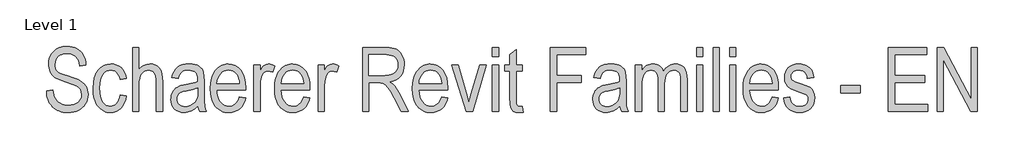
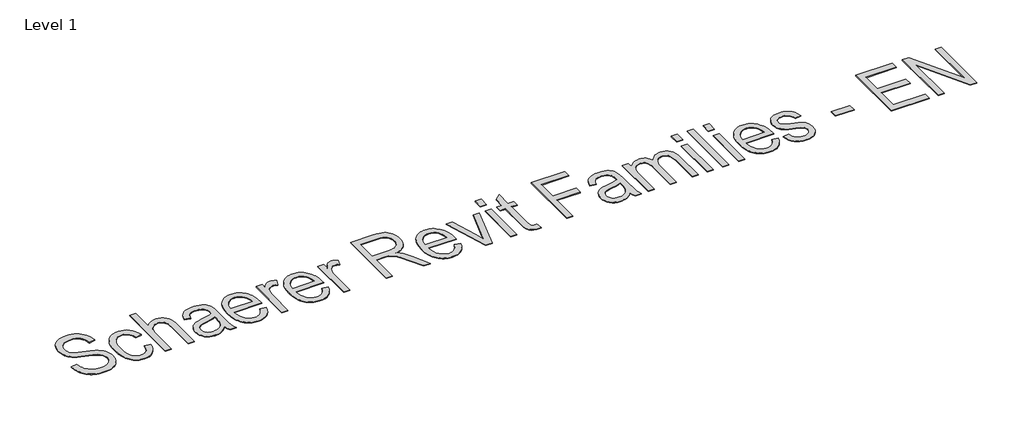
# One storey, part 3 of 3: 1 proxy.
"""IFC4 building model written with IfcOpenShell, lengths in millimetres."""

from ifc_helpers import new_model, si_unit, origin, origin_with_axes, place, context, project, spatial, polyline, outline, extrude, element, save

model = new_model("IFC4")

# Units and contexts
model_context = context("Model", 3, world=origin())
ifc_project = project(units=[si_unit("LENGTHUNIT", "METRE", prefix="MILLI")], contexts=[model_context])

# Site, building, storey
site = spatial("IfcSite", under=ifc_project)
building = spatial("IfcBuilding", under=site)
storey = spatial("IfcBuildingStorey", under=building, Name="Level 1", Elevation=0.0)

# Proxy
placement = place(None, origin())
element("IfcBuildingElementProxy", 1, Name="2000mm Arial", ObjectType="2000mm Arial", at=placement, inside=storey, context=model_context, shape_type="SweptSolid", body=[
    extrude(outline(polyline([(-29977.9464869, 13608.1957438), (-29879.5021742, 13624.6031293), (-29873.9342382, 13582.9517636), (-29865.6904884, 13546.1873633), (-29854.7709247, 13514.3099284), (-29841.1755472, 13487.3194588), (-29824.6319677, 13463.9741848), (-29804.8677978, 13443.0323364), (-29781.8830376, 13424.4939136), (-29755.6776871, 13408.3589164), (-29726.9968083, 13395.2922925), (-29696.585463, 13385.9589897), (-29664.4436512, 13380.3590081), (-29630.5713731, 13378.4923475), (-29583.3761056, 13381.4966295), (-29541.7728085, 13390.5094755), (-29505.7614815, 13405.5308856), (-29475.3421248, 13426.5608596), (-29451.1716746, 13452.3976848), (-29433.9070674, 13481.8396485), (-29423.548303, 13514.8867505), (-29420.0953816, 13551.5389909), (-29425.1265525, 13593.7751902), (-29440.2200653, 13630.243168), (-29465.472057, 13660.782696), (-29500.9786646, 13685.2335458), (-29565.166151, 13711.6071361), (-29676.4607793, 13747.9148855), (-29778.3980705, 13784.4469547), (-29815.83543, 13802.4245782), (-29844.251932, 13820.2099277), (-29866.8281098, 13839.0928415), (-29886.7444967, 13860.3631581), (-29904.0010925, 13884.0208774), (-29918.5978973, 13910.0659996), (-29930.206443, 13938.1940905), (-29938.4982613, 13968.1007165), (-29943.4733523, 13999.7858773), (-29945.131716, 14033.2495731), (-29940.2767963, 14092.2136146), (-29925.7120371, 14145.5376173), (-29901.4374385, 14193.2215813), (-29867.4530005, 14235.2655065), (-29825.2488469, 14269.5864241), (-29776.3151016, 14294.1013653), (-29720.6517647, 14308.8103299), (-29658.258836, 14313.7133182), (-29614.4283644, 14311.4781324), (-29573.4339351, 14304.7725749), (-29535.2755479, 14293.5966459), (-29499.953203, 14277.9503452), (-29467.9475853, 14258.1300954), (-29439.7393802, 14234.432319), (-29415.3285875, 14206.8570159), (-29394.7152072, 14175.4041861), (-29378.1636162, 14140.5465035), (-29365.9381913, 14102.7566416), (-29358.0389325, 14062.0346004), (-29354.4658398, 14018.3803801), (-29452.9101525, 14001.9729946), (-29459.6798013, 14048.8478053), (-29471.7850549, 14089.2333669), (-29489.2259134, 14123.1296793), (-29512.0023767, 14150.5367426), (-29540.0183078, 14171.6788765), (-29573.1775697, 14186.7804007), (-29611.4801624, 14195.8413152), (-29654.9260858, 14198.86162), (-29698.9328086, 14195.9054065), (-29737.3796069, 14187.0367661), (-29770.2664805, 14172.2556986), (-29797.5934296, 14151.5622042), (-29819.0720431, 14126.1740184), (-29834.4139099, 14097.3088769), (-29843.6190299, 14064.9667797), (-29846.6874033, 14029.1477268), (-29844.7005715, 13996.2528417), (-29838.740076, 13967.2995746), (-29828.8059168, 13942.2879255), (-29814.898094, 13921.2178944), (-29793.0749895, 13902.1987864), (-29759.13862, 13883.5962723), (-29713.0889854, 13865.4103519), (-29654.9260858, 13847.6410252), (-29547.829441, 13815.3389851), (-29478.2903269, 13787.6515222), (-29441.8383719, 13766.6856395), (-29410.1612224, 13743.2682627), (-29383.2588785, 13717.3993918), (-29361.1313401, 13689.0790268), (-29343.8587215, 13658.1148936), (-29331.5211367, 13624.3147182), (-29324.1185858, 13587.6785006), (-29321.6510689, 13548.2062408), (-29324.1826772, 13508.4776156), (-29331.7775021, 13470.559571), (-29344.4355436, 13434.452107), (-29362.1568017, 13400.1552236), (-29384.2282602, 13368.7584738), (-29409.9369027, 13341.3514105), (-29439.2827293, 13317.9340337), (-29472.26574, 13298.5063435), (-29508.8378663, 13283.2526023), (-29548.9510396, 13272.3570729), (-29592.60526, 13265.8197553), (-29639.8005274, 13263.6406494), (-29712.4400605, 13269.4489279), (-29745.8456736, 13276.7092761), (-29777.3085176, 13286.8737635), (-29806.8285925, 13299.9423903), (-29834.4058985, 13315.9151562), (-29860.0404354, 13334.7920615), (-29883.7322033, 13356.573106), (-29905.0846369, 13380.8336846), (-29923.701171, 13407.1491921), (-29939.5818057, 13435.5196285), (-29952.7265409, 13465.9449938), (-29963.1353766, 13498.425288), (-29970.8083129, 13532.960511), (-29977.9464869, 13608.1957438)])), origin_with_axes(), (0.0, 0.0, 1.0), 10.0),
    extrude(outline(polyline([(-28813.0221199, 13542.566202), (-28714.5778072, 13526.1588166), (-28726.4427183, 13465.9850509), (-28744.8609698, 13413.3900873), (-28769.8325619, 13368.3739257), (-28801.3574943, 13330.9365663), (-28837.8975749, 13301.4946026), (-28877.9146112, 13280.4646286), (-28921.4086032, 13267.8466442), (-28968.3795509, 13263.6406494), (-29024.9722125, 13269.737339), (-29051.2977342, 13277.358201), (-29076.3093833, 13288.0274078), (-29100.0071598, 13301.7449595), (-29122.3910636, 13318.5108559), (-29163.2172531, 13361.1876832), (-29181.1227739, 13387.0385284), (-29196.6408919, 13415.8175471), (-29209.7716071, 13447.5247394), (-29220.5149195, 13482.1601052), (-29234.8393361, 13560.2153574), (-29239.6141416, 13649.9833036), (-29234.6951306, 13740.1197752), (-29219.9380974, 13818.2551415), (-29208.8703225, 13852.8224103), (-29195.343042, 13884.3894027), (-29179.3562561, 13912.9561189), (-29160.9099646, 13938.5225587), (-29118.7538795, 13980.6385867), (-29095.5728395, 13997.1841691), (-29070.9898013, 14010.7214638), (-29045.0047649, 14021.2504708), (-29017.6177301, 14028.7711901), (-28958.6376658, 14034.7877655), (-28912.9485451, 14031.19865), (-28870.9927455, 14020.4313033), (-28832.770267, 14002.4857254), (-28798.2811096, 13977.3619165), (-28768.5827805, 13945.0598763), (-28744.7327871, 13905.5796051), (-28726.7311294, 13858.9211027), (-28714.5778072, 13805.0843692), (-28813.0221199, 13788.6769838), (-28822.1230916, 13823.3904609), (-28834.0440825, 13853.4412924), (-28848.7850929, 13878.8294781), (-28866.3461227, 13899.5550183), (-28886.2625095, 13915.6499584), (-28908.0695911, 13927.1463442), (-28931.7673676, 13934.0441757), (-28957.3558388, 13936.3434528), (-28995.3860433, 13932.0893895), (-29030.0033834, 13919.3271996), (-29061.2078591, 13898.056883), (-29088.9994705, 13868.2784397), (-29111.8240023, 13829.2387965), (-29128.1272393, 13780.18488), (-29137.9091815, 13721.1166901), (-29141.1698289, 13652.0342268), (-29138.1335013, 13580.796692), (-29129.0245182, 13520.1342297), (-29113.8428798, 13470.0468402), (-29092.5885861, 13430.5345232), (-29066.5915325, 13400.5878402), (-29037.1816145, 13379.1973524), (-29004.3588322, 13366.3630596), (-28968.1231855, 13362.0849621), (-28939.4663409, 13364.8328787), (-28912.9725794, 13373.0766285), (-28888.6419008, 13386.8162115), (-28866.4743054, 13406.0516278), (-28847.3190033, 13431.0712883), (-28832.025205, 13462.1636042), (-28820.5929106, 13499.3285754), (-28813.0221199, 13542.566202)])), origin_with_axes(), (0.0, 0.0, 1.0), 10.0),
    extrude(outline(polyline([(-28616.1334945, 13280.0480348), (-28616.1334945, 14297.3059327), (-28517.6891818, 14297.3059327), (-28517.6891818, 13942.7525878), (-28480.5482449, 13983.0980922), (-28438.8568221, 14011.8430624), (-28392.6149135, 14029.0515898), (-28341.822519, 14034.7877655), (-28297.6155108, 14030.9422846), (-28258.3114908, 14019.4058417), (-28223.910459, 14000.1784368), (-28194.4124154, 13973.2600701), (-28170.7466846, 13936.0870874), (-28153.8425912, 13886.0958349), (-28143.7001352, 13823.2863125), (-28140.3193165, 13747.6585202), (-28140.3193165, 13280.0480348), (-28238.7636292, 13280.0480348), (-28238.7636292, 13754.5803859), (-28240.8225638, 13799.7327416), (-28246.9993676, 13838.0273228), (-28257.2940406, 13869.4641297), (-28271.7065828, 13894.0431622), (-28289.7242634, 13912.5495394), (-28310.8343516, 13925.7683802), (-28335.0368474, 13933.6996847), (-28362.3317509, 13936.3434528), (-28393.4320782, 13932.9546227), (-28422.1289799, 13922.7881324), (-28448.422456, 13905.8439819), (-28472.3125065, 13882.1221712), (-28492.1648019, 13849.7640512), (-28506.345013, 13806.9109727), (-28514.8531396, 13753.5629357), (-28517.6891818, 13689.7199403), (-28517.6891818, 13280.0480348), (-28616.1334945, 13280.0480348)])), origin_with_axes(), (0.0, 0.0, 1.0), 10.0),
    extrude(outline(polyline([(-27582.4682112, 13371.8268472), (-27634.5424326, 13324.655614), (-27688.7316685, 13290.8153815), (-27716.6194169, 13278.9264362), (-27745.035919, 13270.4343324), (-27773.9811747, 13265.3390701), (-27803.455184, 13263.6406494), (-27847.9986718, 13267.2137421), (-27887.7993998, 13277.9330203), (-27922.8573679, 13295.7984839), (-27953.1725762, 13320.8101331), (-27977.623426, 13351.8623918), (-27995.0883187, 13387.8496845), (-28005.5672543, 13428.7720111), (-28009.0602329, 13474.6293716), (-28007.3858464, 13505.7617446), (-28002.3626869, 13535.0675141), (-27993.9907544, 13562.5466802), (-27982.2700488, 13588.1992428), (-27967.6492097, 13611.5845739), (-27950.5768765, 13632.2620455), (-27931.0530492, 13650.2316576), (-27909.0777278, 13665.4934102), (-27882.8803887, 13678.4959427), (-27850.6905085, 13689.6878946), (-27768.3331245, 13706.6400565), (-27658.5446429, 13729.3283942), (-27616.2924208, 13742.1146184), (-27582.4682112, 13755.8622129), (-27582.4682112, 13787.3951568), (-27584.2147005, 13822.0365311), (-27589.4541683, 13851.1019581), (-27598.1866146, 13874.5914377), (-27610.4120395, 13892.5049698), (-27632.6517378, 13911.6843061), (-27660.1469267, 13925.3838321), (-27692.8976062, 13933.6035476), (-27730.9037764, 13936.3434528), (-27765.2567397, 13934.6209978), (-27794.9951258, 13929.4536328), (-27820.1189348, 13920.8413577), (-27840.6281666, 13908.7841726), (-27857.6283971, 13891.9682048), (-27872.2252019, 13869.0795816), (-27884.4185811, 13840.1183031), (-27894.2085347, 13805.0843692), (-27992.6528474, 13821.4917547), (-27979.1135499, 13873.4618276), (-27960.0303506, 13917.8530985), (-27935.4032496, 13954.6655673), (-27905.2322468, 13983.8992341), (-27868.7482462, 14006.1629666), (-27825.1821514, 14022.0656327), (-27774.5339625, 14031.6072323), (-27716.8036796, 14034.7877655), (-27671.5712097, 14032.5525797), (-27631.4980935, 14025.8470223), (-27596.5843309, 14014.6710932), (-27566.8299219, 13999.0247926), (-27542.1627638, 13980.0777874), (-27522.5107538, 13958.9997448), (-27507.8738919, 13935.7906649), (-27498.2521781, 13910.4505477), (-27487.5809684, 13845.4619194), (-27484.0238985, 13756.1185783), (-27484.0238985, 13589.2247044), (-27482.3575234, 13446.5253149), (-27477.3583981, 13368.6222797), (-27467.4883303, 13323.7262895), (-27451.2091276, 13280.0480348), (-27549.6534403, 13280.0480348), (-27570.4190375, 13322.2201427), (-27582.4682112, 13371.8268472)]), holes=[polyline([(-27582.4682112, 13657.4179002), (-27615.683553, 13643.4780317), (-27656.1091717, 13630.6277161), (-27758.5912394, 13608.1957438), (-27816.3054995, 13596.1145245), (-27853.5746192, 13582.4310214), (-27877.6088752, 13564.934083), (-27895.6185444, 13541.4125577), (-27906.8665762, 13512.8598616), (-27910.6159202, 13480.2694104), (-27908.46886, 13454.7049734), (-27902.0276794, 13431.8483959), (-27891.2923783, 13411.6996779), (-27876.2629569, 13394.2588195), (-27857.436123, 13380.1827569), (-27835.3085846, 13370.1284264), (-27809.8803417, 13364.0958282), (-27781.1513944, 13362.0849621), (-27752.9672235, 13363.9035541), (-27726.0969252, 13369.3593302), (-27700.5404996, 13378.4522904), (-27676.2979467, 13391.1824347), (-27654.202454, 13406.9489067), (-27635.0872091, 13425.1508499), (-27618.9522118, 13445.7882644), (-27605.7974624, 13468.8611502), (-27595.590915, 13495.9317339), (-27588.300524, 13528.5622422), (-27583.9262894, 13566.752675), (-27582.4682112, 13610.5030324), (-27582.4682112, 13657.4179002)])]), origin_with_axes(), (0.0, 0.0, 1.0), 10.0),
    extrude(outline(polyline([(-26926.1727932, 13509.7514311), (-26827.7284805, 13493.3440457), (-26843.735295, 13439.9239059), (-26865.0937372, 13393.4897233), (-26891.8038071, 13354.0414977), (-26923.8655046, 13321.5792292), (-26960.6859848, 13296.2311006), (-27001.6724028, 13278.1252943), (-27046.8247585, 13267.2618106), (-27096.1430518, 13263.6406494), (-27127.7360814, 13265.1648218), (-27157.7829071, 13269.737339), (-27186.2835291, 13277.358201), (-27213.2379472, 13288.0274078), (-27238.6461615, 13301.7449595), (-27262.5081721, 13318.5108559), (-27284.8239788, 13338.3250971), (-27305.5935817, 13361.1876832), (-27324.3403014, 13386.9303742), (-27340.5874585, 13415.3849305), (-27354.3350529, 13446.551352), (-27365.5830848, 13480.4296388), (-27380.5804605, 13556.3218079), (-27385.5795858, 13643.0614379), (-27380.5564263, 13732.8934755), (-27365.4869477, 13811.3973671), (-27354.1848388, 13846.4012582), (-27340.3711502, 13878.5731127), (-27324.0458818, 13907.9129308), (-27305.2090336, 13934.4207123), (-27262.3559551, 13978.3312981), (-27238.9285641, 13995.5818854), (-27214.1672718, 14009.6960022), (-27188.0720783, 14020.6736487), (-27160.6429836, 14028.5148247), (-27131.8799877, 14033.2195303), (-27101.7830906, 14034.7877655), (-27045.3907145, 14028.731133), (-27019.0271385, 14021.1603424), (-26993.8853038, 14010.5612354), (-26969.9652105, 13996.9338123), (-26947.2668586, 13980.2780729), (-26905.5353787, 13937.8816452), (-26887.11913, 13912.3011854), (-26871.1583811, 13884.012866), (-26857.6531321, 13853.0166872), (-26846.6033829, 13819.3126488), (-26831.8703839, 13743.7809935), (-26826.9593843, 13657.4179002), (-26827.7284805, 13624.6031293), (-27287.1352731, 13624.6031293), (-27280.8463094, 13563.4920276), (-27268.6449188, 13510.3923446), (-27250.5311011, 13465.3040803), (-27226.5048565, 13428.2272347), (-27198.040286, 13399.2899904), (-27166.6114905, 13378.6205302), (-27132.2184701, 13366.2188541), (-27094.8612248, 13362.0849621), (-27065.6996609, 13364.3922507), (-27038.8453855, 13371.3141164), (-27014.2983986, 13382.8505593), (-26992.0587004, 13399.0015793), (-26972.1262907, 13419.7671765), (-26954.5011696, 13445.1473509), (-26939.1833371, 13475.1421024), (-26926.1727932, 13509.7514311)]), holes=[polyline([(-27280.4697727, 13723.047442), (-26926.1727932, 13723.047442), (-26931.5564665, 13768.1997976), (-26940.5292555, 13807.2634751), (-26953.0911599, 13840.2384744), (-26969.24218, 13867.1247955), (-26996.8975973, 13897.4079581), (-27028.0780388, 13919.0387885), (-27062.7835045, 13932.0172867), (-27101.0139944, 13936.3434528), (-27135.83162, 13932.7383144), (-27167.9894545, 13921.9228992), (-27197.4874981, 13903.8972072), (-27224.3257507, 13878.6612384), (-27246.9660198, 13847.3045457), (-27263.8701132, 13810.916682), (-27275.0380309, 13769.4976475), (-27280.4697727, 13723.047442)])]), origin_with_axes(), (0.0, 0.0, 1.0), 10.0),
    extrude(outline(polyline([(-26696.4693969, 13280.0480348), (-26696.4693969, 14018.3803801), (-26598.0250842, 14018.3803801), (-26598.0250842, 13920.4487982), (-26565.0821306, 13978.0028299), (-26549.668161, 13998.0313766), (-26534.9591964, 14012.2276105), (-26504.451714, 14029.1477268), (-26470.3551161, 14034.7877655), (-26445.2313072, 14032.7368423), (-26419.8511328, 14026.5840728), (-26394.214593, 14016.3294569), (-26368.3216879, 14001.9729946), (-26401.1364588, 13903.5286819), (-26439.8476338, 13915.834221), (-26477.5333473, 13919.9360674), (-26509.675159, 13914.0717089), (-26538.93286, 13896.4786335), (-26562.6146136, 13868.3745768), (-26578.0285832, 13830.9772744), (-26593.0259589, 13755.5417561), (-26598.0250842, 13675.363478), (-26598.0250842, 13280.0480348), (-26696.4693969, 13280.0480348)])), origin_with_axes(), (0.0, 0.0, 1.0), 10.0),
    extrude(outline(polyline([(-25908.9148953, 13509.7514311), (-25810.4705826, 13493.3440457), (-25826.4773971, 13439.9239059), (-25847.8358393, 13393.4897233), (-25874.5459092, 13354.0414977), (-25906.6076067, 13321.5792292), (-25943.4280869, 13296.2311006), (-25984.4145049, 13278.1252943), (-26029.5668606, 13267.2618106), (-26078.8851539, 13263.6406494), (-26110.4781835, 13265.1648218), (-26140.5250092, 13269.737339), (-26169.0256312, 13277.358201), (-26195.9800493, 13288.0274078), (-26221.3882636, 13301.7449595), (-26245.2502742, 13318.5108559), (-26267.5660809, 13338.3250971), (-26288.3356838, 13361.1876832), (-26307.0824035, 13386.9303742), (-26323.3295606, 13415.3849305), (-26337.077155, 13446.551352), (-26348.3251869, 13480.4296388), (-26363.3225626, 13556.3218079), (-26368.3216879, 13643.0614379), (-26363.2985284, 13732.8934755), (-26348.2290498, 13811.3973671), (-26336.9269409, 13846.4012582), (-26323.1132523, 13878.5731127), (-26306.7879839, 13907.9129308), (-26287.9511357, 13934.4207123), (-26245.0980572, 13978.3312981), (-26221.6706661, 13995.5818854), (-26196.9093739, 14009.6960022), (-26170.8141804, 14020.6736487), (-26143.3850857, 14028.5148247), (-26114.6220898, 14033.2195303), (-26084.5251927, 14034.7877655), (-26028.1328166, 14028.731133), (-26001.7692406, 14021.1603424), (-25976.6274059, 14010.5612354), (-25952.7073126, 13996.9338123), (-25930.0089607, 13980.2780729), (-25888.2774808, 13937.8816452), (-25869.8612321, 13912.3011854), (-25853.9004832, 13884.012866), (-25840.3952342, 13853.0166872), (-25829.345485, 13819.3126488), (-25814.612486, 13743.7809935), (-25809.7014864, 13657.4179002), (-25810.4705826, 13624.6031293), (-26269.8773752, 13624.6031293), (-26263.5884115, 13563.4920276), (-26251.3870209, 13510.3923446), (-26233.2732032, 13465.3040803), (-26209.2469586, 13428.2272347), (-26180.7823881, 13399.2899904), (-26149.3535926, 13378.6205302), (-26114.9605722, 13366.2188541), (-26077.6033269, 13362.0849621), (-26048.441763, 13364.3922507), (-26021.5874875, 13371.3141164), (-25997.0405007, 13382.8505593), (-25974.8008025, 13399.0015793), (-25954.8683928, 13419.7671765), (-25937.2432717, 13445.1473509), (-25921.9254392, 13475.1421024), (-25908.9148953, 13509.7514311)]), holes=[polyline([(-26263.2118748, 13723.047442), (-25908.9148953, 13723.047442), (-25914.2985686, 13768.1997976), (-25923.2713575, 13807.2634751), (-25935.833262, 13840.2384744), (-25951.9842821, 13867.1247955), (-25979.6396994, 13897.4079581), (-26010.8201408, 13919.0387885), (-26045.5256066, 13932.0172867), (-26083.7560965, 13936.3434528), (-26118.573722, 13932.7383144), (-26150.7315566, 13921.9228992), (-26180.2296002, 13903.8972072), (-26207.0678528, 13878.6612384), (-26229.7081219, 13847.3045457), (-26246.6122153, 13810.916682), (-26257.780133, 13769.4976475), (-26263.2118748, 13723.047442)])]), origin_with_axes(), (0.0, 0.0, 1.0), 10.0),
    extrude(outline(polyline([(-25679.211499, 13280.0480348), (-25679.211499, 14018.3803801), (-25580.7671863, 14018.3803801), (-25580.7671863, 13920.4487982), (-25547.8242327, 13978.0028299), (-25532.4102631, 13998.0313766), (-25517.7012985, 14012.2276105), (-25487.1938161, 14029.1477268), (-25453.0972182, 14034.7877655), (-25427.9734093, 14032.7368423), (-25402.5932349, 14026.5840728), (-25376.9566951, 14016.3294569), (-25351.06379, 14001.9729946), (-25383.8785609, 13903.5286819), (-25422.5897359, 13915.834221), (-25460.2754494, 13919.9360674), (-25492.4172611, 13914.0717089), (-25521.6749621, 13896.4786335), (-25545.3567157, 13868.3745768), (-25560.7706853, 13830.9772744), (-25575.768061, 13755.5417561), (-25580.7671863, 13675.363478), (-25580.7671863, 13280.0480348), (-25679.211499, 13280.0480348)])), origin_with_axes(), (0.0, 0.0, 1.0), 10.0),
    extrude(outline(polyline([(-24973.6939246, 13280.0480348), (-24973.6939246, 14297.3059327), (-24609.65506, 14297.3059327), (-24556.3550915, 14295.5434206), (-24510.5377881, 14290.2558843), (-24472.2031497, 14281.4433237), (-24441.3511764, 14269.105739), (-24415.4502598, 14252.6582964), (-24391.9687917, 14231.5161626), (-24370.906772, 14205.6793373), (-24352.2642007, 14175.1478207), (-24337.0104595, 14140.9630973), (-24326.1149301, 14104.1666513), (-24319.5776125, 14064.7584828), (-24317.3985066, 14022.7385918), (-24321.0757478, 13968.397139), (-24332.1074713, 13919.4553823), (-24350.4936772, 13875.9133217), (-24376.2343654, 13837.7709574), (-24408.9770335, 13805.5570429), (-24448.3691791, 13779.8003319), (-24494.4108023, 13760.5008243), (-24547.1019029, 13747.6585202), (-24501.0202227, 13715.9333022), (-24467.3722643, 13683.8235361), (-24424.4310601, 13622.6162974), (-24386.8735294, 13554.8717411), (-24251.7689648, 13280.0480348), (-24360.9806242, 13280.0480348), (-24475.0632262, 13492.8313149), (-24533.5145368, 13597.7808995), (-24576.5839237, 13662.9297562), (-24611.4175721, 13700.7756981), (-24645.1616675, 13723.8165382), (-24684.9944412, 13735.5452551), (-24738.0941242, 13739.4548274), (-24875.2496119, 13739.4548274), (-24875.2496119, 13280.0480348), (-24973.6939246, 13280.0480348)]), holes=[polyline([(-24875.2496119, 13854.3065256), (-24628.8824648, 13854.3065256), (-24558.0615237, 13858.8890571), (-24529.9093984, 13864.6172214), (-24506.5961701, 13872.6366515), (-24486.7839317, 13883.1075757), (-24469.1347764, 13896.1902224), (-24453.6487041, 13911.8845916), (-24440.3257148, 13930.1906833), (-24429.614448, 13950.6037781), (-24421.9635432, 13972.6191566), (-24417.3730003, 13996.2368189), (-24415.8428193, 14021.4567648), (-24418.7669871, 14057.0034295), (-24427.5394906, 14088.528362), (-24442.1603297, 14116.0315623), (-24462.6295044, 14139.5130305), (-24488.8669006, 14158.2998073), (-24520.792404, 14171.7189336), (-24558.4060147, 14179.7704093), (-24601.7077326, 14182.4542346), (-24875.2496119, 14182.4542346), (-24875.2496119, 13854.3065256)])]), origin_with_axes(), (0.0, 0.0, 1.0), 10.0),
    extrude(outline(polyline([(-23726.7326304, 13509.7514311), (-23628.2883177, 13493.3440457), (-23644.2951322, 13439.9239059), (-23665.6535744, 13393.4897233), (-23692.3636443, 13354.0414977), (-23724.4253418, 13321.5792292), (-23761.2458221, 13296.2311006), (-23802.23224, 13278.1252943), (-23847.3845957, 13267.2618106), (-23896.7028891, 13263.6406494), (-23928.2959186, 13265.1648218), (-23958.3427444, 13269.737339), (-23986.8433663, 13277.358201), (-24013.7977844, 13288.0274078), (-24039.2059988, 13301.7449595), (-24063.0680093, 13318.5108559), (-24085.383816, 13338.3250971), (-24106.153419, 13361.1876832), (-24124.9001387, 13386.9303742), (-24141.1472957, 13415.3849305), (-24154.8948902, 13446.551352), (-24166.142922, 13480.4296388), (-24181.1402978, 13556.3218079), (-24186.139423, 13643.0614379), (-24181.1162635, 13732.8934755), (-24166.046785, 13811.3973671), (-24154.7446761, 13846.4012582), (-24140.9309874, 13878.5731127), (-24124.605719, 13907.9129308), (-24105.7688709, 13934.4207123), (-24062.9157924, 13978.3312981), (-24039.4884013, 13995.5818854), (-24014.727109, 14009.6960022), (-23988.6319155, 14020.6736487), (-23961.2028208, 14028.5148247), (-23932.4398249, 14033.2195303), (-23902.3429278, 14034.7877655), (-23845.9505517, 14028.731133), (-23819.5869757, 14021.1603424), (-23794.4451411, 14010.5612354), (-23770.5250478, 13996.9338123), (-23747.8266958, 13980.2780729), (-23706.0952159, 13937.8816452), (-23687.6789672, 13912.3011854), (-23671.7182184, 13884.012866), (-23658.2129693, 13853.0166872), (-23647.1632201, 13819.3126488), (-23632.4302212, 13743.7809935), (-23627.5192215, 13657.4179002), (-23628.2883177, 13624.6031293), (-24087.6951103, 13624.6031293), (-24081.4061467, 13563.4920276), (-24069.204756, 13510.3923446), (-24051.0909384, 13465.3040803), (-24027.0646938, 13428.2272347), (-23998.6001232, 13399.2899904), (-23967.1713277, 13378.6205302), (-23932.7783074, 13366.2188541), (-23895.4210621, 13362.0849621), (-23866.2594981, 13364.3922507), (-23839.4052227, 13371.3141164), (-23814.8582359, 13382.8505593), (-23792.6185376, 13399.0015793), (-23772.6861279, 13419.7671765), (-23755.0610069, 13445.1473509), (-23739.7431744, 13475.1421024), (-23726.7326304, 13509.7514311)]), holes=[polyline([(-24081.02961, 13723.047442), (-23726.7326304, 13723.047442), (-23732.1163038, 13768.1997976), (-23741.0890927, 13807.2634751), (-23753.6509972, 13840.2384744), (-23769.8020172, 13867.1247955), (-23797.4574345, 13897.4079581), (-23828.637876, 13919.0387885), (-23863.3433417, 13932.0172867), (-23901.5738316, 13936.3434528), (-23936.3914572, 13932.7383144), (-23968.5492918, 13921.9228992), (-23998.0473353, 13903.8972072), (-24024.8855879, 13878.6612384), (-24047.5258571, 13847.3045457), (-24064.4299505, 13810.916682), (-24075.5978681, 13769.4976475), (-24081.02961, 13723.047442)])]), origin_with_axes(), (0.0, 0.0, 1.0), 10.0),
    extrude(outline(polyline([(-23333.4681104, 13280.0480348), (-23565.7351607, 14018.3803801), (-23464.2144632, 14018.3803801), (-23331.6735526, 13576.4064345), (-23291.936916, 13427.7145039), (-23254.5075679, 13568.2027418), (-23119.6593688, 14018.3803801), (-23018.1386713, 14018.3803801), (-23233.2292399, 13280.0480348), (-23333.4681104, 13280.0480348)])), origin_with_axes(), (0.0, 0.0, 1.0), 10.0),
    extrude(outline(polyline([(-22922.7707434, 14149.6394637), (-22922.7707434, 14297.3059327), (-22824.3264307, 14297.3059327), (-22824.3264307, 14149.6394637), (-22922.7707434, 14149.6394637)])), origin_with_axes(), (0.0, 0.0, 1.0), 10.0),
    extrude(outline(polyline([(-22922.7707434, 13280.0480348), (-22922.7707434, 14018.3803801), (-22824.3264307, 14018.3803801), (-22824.3264307, 13280.0480348), (-22922.7707434, 13280.0480348)])), origin_with_axes(), (0.0, 0.0, 1.0), 10.0),
    extrude(outline(polyline([(-22446.9565653, 13362.0849621), (-22430.5491799, 13263.6406494), (-22504.8951452, 13263.6406494), (-22551.6818303, 13268.9922771), (-22571.3258289, 13275.6818116), (-22588.4702648, 13285.0471601), (-22615.2604489, 13310.3952888), (-22632.0523824, 13343.6266534), (-22640.8969886, 13399.1938534), (-22643.8451907, 13491.5494879), (-22643.8451907, 13919.9360674), (-22725.882118, 13919.9360674), (-22725.882118, 14018.3803801), (-22643.8451907, 14018.3803801), (-22643.8451907, 14182.4542346), (-22545.400878, 14264.4911618), (-22545.400878, 14018.3803801), (-22446.9565653, 14018.3803801), (-22446.9565653, 13919.9360674), (-22545.400878, 13919.9360674), (-22545.400878, 13468.9893329), (-22543.2217721, 13417.5239793), (-22536.6844545, 13388.2342326), (-22529.1537209, 13376.7939268), (-22518.8670594, 13368.6222797), (-22505.8244698, 13363.7192915), (-22490.0259521, 13362.0849621), (-22446.9565653, 13362.0849621)])), origin_with_axes(), (0.0, 0.0, 1.0), 10.0),
    extrude(outline(polyline([(-22003.9571582, 13280.0480348), (-22003.9571582, 14297.3059327), (-21446.1060529, 14297.3059327), (-21446.1060529, 14182.4542346), (-21905.5128455, 14182.4542346), (-21905.5128455, 13854.3065256), (-21511.7355947, 13854.3065256), (-21511.7355947, 13739.4548274), (-21905.5128455, 13739.4548274), (-21905.5128455, 13280.0480348), (-22003.9571582, 13280.0480348)])), origin_with_axes(), (0.0, 0.0, 1.0), 10.0),
    extrude(outline(polyline([(-20904.662333, 13371.8268472), (-20956.7365544, 13324.655614), (-21010.9257903, 13290.8153815), (-21038.8135387, 13278.9264362), (-21067.2300408, 13270.4343324), (-21096.1752965, 13265.3390701), (-21125.6493058, 13263.6406494), (-21170.1927936, 13267.2137421), (-21209.9935216, 13277.9330203), (-21245.0514897, 13295.7984839), (-21275.366698, 13320.8101331), (-21299.8175478, 13351.8623918), (-21317.2824405, 13387.8496845), (-21327.7613762, 13428.7720111), (-21331.2543547, 13474.6293716), (-21329.5799682, 13505.7617446), (-21324.5568087, 13535.0675141), (-21316.1848762, 13562.5466802), (-21304.4641707, 13588.1992428), (-21289.8433316, 13611.5845739), (-21272.7709984, 13632.2620455), (-21253.2471711, 13650.2316576), (-21231.2718496, 13665.4934102), (-21205.0745105, 13678.4959427), (-21172.8846303, 13689.6878946), (-21090.5272463, 13706.6400565), (-20980.7387648, 13729.3283942), (-20938.4865427, 13742.1146184), (-20904.662333, 13755.8622129), (-20904.662333, 13787.3951568), (-20906.4088223, 13822.0365311), (-20911.6482901, 13851.1019581), (-20920.3807365, 13874.5914377), (-20932.6061614, 13892.5049698), (-20954.8458596, 13911.6843061), (-20982.3410485, 13925.3838321), (-21015.091728, 13933.6035476), (-21053.0978983, 13936.3434528), (-21087.4508615, 13934.6209978), (-21117.1892477, 13929.4536328), (-21142.3130566, 13920.8413577), (-21162.8222884, 13908.7841726), (-21179.8225189, 13891.9682048), (-21194.4193237, 13869.0795816), (-21206.6127029, 13840.1183031), (-21216.4026566, 13805.0843692), (-21314.8469693, 13821.4917547), (-21301.3076717, 13873.4618276), (-21282.2244724, 13917.8530985), (-21257.5973714, 13954.6655673), (-21227.4263687, 13983.8992341), (-21190.942368, 14006.1629666), (-21147.3762732, 14022.0656327), (-21096.7280844, 14031.6072323), (-21038.9978014, 14034.7877655), (-20993.7653315, 14032.5525797), (-20953.6922153, 14025.8470223), (-20918.7784527, 14014.6710932), (-20889.0240437, 13999.0247926), (-20864.3568856, 13980.0777874), (-20844.7048756, 13958.9997448), (-20830.0680137, 13935.7906649), (-20820.4462999, 13910.4505477), (-20809.7750902, 13845.4619194), (-20806.2180203, 13756.1185783), (-20806.2180203, 13589.2247044), (-20804.5516452, 13446.5253149), (-20799.55252, 13368.6222797), (-20789.6824522, 13323.7262895), (-20773.4032494, 13280.0480348), (-20871.8475621, 13280.0480348), (-20892.6131593, 13322.2201427), (-20904.662333, 13371.8268472)]), holes=[polyline([(-20904.662333, 13657.4179002), (-20937.8776748, 13643.4780317), (-20978.3032935, 13630.6277161), (-21080.7853612, 13608.1957438), (-21138.4996213, 13596.1145245), (-21175.768741, 13582.4310214), (-21199.8029971, 13564.934083), (-21217.8126662, 13541.4125577), (-21229.0606981, 13512.8598616), (-21232.810042, 13480.2694104), (-21230.6629818, 13454.7049734), (-21224.2218012, 13431.8483959), (-21213.4865002, 13411.6996779), (-21198.4570787, 13394.2588195), (-21179.6302448, 13380.1827569), (-21157.5027064, 13370.1284264), (-21132.0744636, 13364.0958282), (-21103.3455162, 13362.0849621), (-21075.1613453, 13363.9035541), (-21048.291047, 13369.3593302), (-21022.7346215, 13378.4522904), (-20998.4920685, 13391.1824347), (-20976.3965758, 13406.9489067), (-20957.2813309, 13425.1508499), (-20941.1463337, 13445.7882644), (-20927.9915842, 13468.8611502), (-20917.7850368, 13495.9317339), (-20910.4946458, 13528.5622422), (-20906.1204112, 13566.752675), (-20904.662333, 13610.5030324), (-20904.662333, 13657.4179002)])]), origin_with_axes(), (0.0, 0.0, 1.0), 10.0),
    extrude(outline(polyline([(-20658.5515513, 13280.0480348), (-20658.5515513, 14018.3803801), (-20560.1072386, 14018.3803801), (-20560.1072386, 13924.2942791), (-20544.1725268, 13949.3059282), (-20526.1067777, 13971.2732383), (-20505.9099912, 13990.1962092), (-20483.5821674, 14006.074841), (-20459.6360369, 14018.6367455), (-20434.5843307, 14027.6095344), (-20408.4270487, 14032.9932077), (-20381.164191, 14034.7877655), (-20351.217508, 14032.8730365), (-20323.6742506, 14027.1288493), (-20298.5344188, 14017.555204), (-20275.7980126, 14004.1521005), (-20255.8175344, 13987.0957901), (-20238.9454866, 13966.5625241), (-20225.1818694, 13942.5523023), (-20214.5266825, 13915.0651248), (-20195.6517801, 13943.177193), (-20175.4309594, 13967.5238943), (-20153.8642203, 13988.1052289), (-20130.9515629, 14004.9211967), (-20106.7250328, 14017.9878206), (-20081.2166757, 14027.3211233), (-20054.4264917, 14032.921105), (-20026.3544806, 14034.7877655), (-19984.9594803, 14031.0945015), (-19948.19508, 14020.0147095), (-19916.0612797, 14001.5483894), (-19888.5580794, 13975.6955414), (-19866.5186666, 13941.7191148), (-19850.7762289, 13898.8820591), (-19841.3307663, 13847.1843744), (-19838.1822788, 13786.6260606), (-19838.1822788, 13280.0480348), (-19936.6265915, 13280.0480348), (-19936.6265915, 13752.2730973), (-19939.5747935, 13820.8508412), (-19948.4193997, 13866.0993339), (-19963.865415, 13895.8697657), (-19986.617844, 13918.0133269), (-20014.6257637, 13931.7609213), (-20045.8382509, 13936.3434528), (-20078.1242681, 13933.0107027), (-20107.3018549, 13923.0124521), (-20133.3710113, 13906.3487013), (-20156.3317372, 13883.0194501), (-20175.0624341, 13852.5440135), (-20188.4415033, 13814.4417062), (-20196.4689448, 13768.7125284), (-20199.1447587, 13715.35648), (-20199.1447587, 13280.0480348), (-20297.5890714, 13280.0480348), (-20297.5890714, 13766.885925), (-20299.3836291, 13810.0915059), (-20304.7673025, 13846.3912439), (-20313.7400914, 13875.785139), (-20326.3019959, 13898.2731913), (-20342.0203993, 13914.9289307), (-20360.4626851, 13926.8258874), (-20381.6288533, 13933.9640615), (-20405.5189038, 13936.3434528), (-20439.4072048, 13932.7463258), (-20469.5461618, 13921.9549449), (-20495.935775, 13903.96931), (-20518.5760441, 13878.7894211), (-20536.7459417, 13844.0919668), (-20549.72444, 13797.5536357), (-20557.5115389, 13739.1744278), (-20560.1072386, 13668.9543431), (-20560.1072386, 13280.0480348), (-20658.5515513, 13280.0480348)])), origin_with_axes(), (0.0, 0.0, 1.0), 10.0),
    extrude(outline(polyline([(-19690.5158097, 14149.6394637), (-19690.5158097, 14297.3059327), (-19592.071497, 14297.3059327), (-19592.071497, 14149.6394637), (-19690.5158097, 14149.6394637)])), origin_with_axes(), (0.0, 0.0, 1.0), 10.0),
    extrude(outline(polyline([(-19690.5158097, 13280.0480348), (-19690.5158097, 14018.3803801), (-19592.071497, 14018.3803801), (-19592.071497, 13280.0480348), (-19690.5158097, 13280.0480348)])), origin_with_axes(), (0.0, 0.0, 1.0), 10.0),
    extrude(outline(polyline([(-19427.9976425, 13280.0480348), (-19427.9976425, 14297.3059327), (-19329.5533298, 14297.3059327), (-19329.5533298, 13280.0480348), (-19427.9976425, 13280.0480348)])), origin_with_axes(), (0.0, 0.0, 1.0), 10.0),
    extrude(outline(polyline([(-19165.4794753, 14149.6394637), (-19165.4794753, 14297.3059327), (-19067.0351626, 14297.3059327), (-19067.0351626, 14149.6394637), (-19165.4794753, 14149.6394637)])), origin_with_axes(), (0.0, 0.0, 1.0), 10.0),
    extrude(outline(polyline([(-19165.4794753, 13280.0480348), (-19165.4794753, 14018.3803801), (-19067.0351626, 14018.3803801), (-19067.0351626, 13280.0480348), (-19165.4794753, 13280.0480348)])), origin_with_axes(), (0.0, 0.0, 1.0), 10.0),
    extrude(outline(polyline([(-18492.7766718, 13509.7514311), (-18394.3323591, 13493.3440457), (-18410.3391737, 13439.9239059), (-18431.6976159, 13393.4897233), (-18458.4076857, 13354.0414977), (-18490.4693833, 13321.5792292), (-18527.2898635, 13296.2311006), (-18568.2762815, 13278.1252943), (-18613.4286371, 13267.2618106), (-18662.7469305, 13263.6406494), (-18694.33996, 13265.1648218), (-18724.3867858, 13269.737339), (-18752.8874077, 13277.358201), (-18779.8418259, 13288.0274078), (-18805.2500402, 13301.7449595), (-18829.1120507, 13318.5108559), (-18851.4278575, 13338.3250971), (-18872.1974604, 13361.1876832), (-18890.9441801, 13386.9303742), (-18907.1913372, 13415.3849305), (-18920.9389316, 13446.551352), (-18932.1869634, 13480.4296388), (-18947.1843392, 13556.3218079), (-18952.1834644, 13643.0614379), (-18947.1603049, 13732.8934755), (-18932.0908264, 13811.3973671), (-18920.7887175, 13846.4012582), (-18906.9750289, 13878.5731127), (-18890.6497604, 13907.9129308), (-18871.8129123, 13934.4207123), (-18828.9598338, 13978.3312981), (-18805.5324427, 13995.5818854), (-18780.7711504, 14009.6960022), (-18754.675957, 14020.6736487), (-18727.2468623, 14028.5148247), (-18698.4838664, 14033.2195303), (-18668.3869692, 14034.7877655), (-18611.9945932, 14028.731133), (-18585.6310172, 14021.1603424), (-18560.4891825, 14010.5612354), (-18536.5690892, 13996.9338123), (-18513.8707372, 13980.2780729), (-18472.1392573, 13937.8816452), (-18453.7230087, 13912.3011854), (-18437.7622598, 13884.012866), (-18424.2570108, 13853.0166872), (-18413.2072615, 13819.3126488), (-18398.4742626, 13743.7809935), (-18393.563263, 13657.4179002), (-18394.3323591, 13624.6031293), (-18853.7391517, 13624.6031293), (-18847.4501881, 13563.4920276), (-18835.2487974, 13510.3923446), (-18817.1349798, 13465.3040803), (-18793.1087352, 13428.2272347), (-18764.6441646, 13399.2899904), (-18733.2153692, 13378.6205302), (-18698.8223488, 13366.2188541), (-18661.4651035, 13362.0849621), (-18632.3035395, 13364.3922507), (-18605.4492641, 13371.3141164), (-18580.9022773, 13382.8505593), (-18558.662579, 13399.0015793), (-18538.7301694, 13419.7671765), (-18521.1050483, 13445.1473509), (-18505.7872158, 13475.1421024), (-18492.7766718, 13509.7514311)]), holes=[polyline([(-18847.0736514, 13723.047442), (-18492.7766718, 13723.047442), (-18498.1603452, 13768.1997976), (-18507.1331341, 13807.2634751), (-18519.6950386, 13840.2384744), (-18535.8460587, 13867.1247955), (-18563.5014759, 13897.4079581), (-18594.6819174, 13919.0387885), (-18629.3873831, 13932.0172867), (-18667.617873, 13936.3434528), (-18702.4354986, 13932.7383144), (-18734.5933332, 13921.9228992), (-18764.0913768, 13903.8972072), (-18790.9296293, 13878.6612384), (-18813.5698985, 13847.3045457), (-18830.4739919, 13810.916682), (-18841.6419095, 13769.4976475), (-18847.0736514, 13723.047442)])]), origin_with_axes(), (0.0, 0.0, 1.0), 10.0),
    extrude(outline(polyline([(-18312.2954319, 13493.3440457), (-18213.8511192, 13509.7514311), (-18207.4099386, 13474.7255087), (-18197.0591856, 13444.5064374), (-18182.7988604, 13419.0942174), (-18164.6289628, 13398.4888485), (-18142.8699497, 13382.5621482), (-18117.8422778, 13371.1859337), (-18089.545947, 13364.360205), (-18057.9809574, 13362.0849621), (-18026.5441505, 13364.1038396), (-17998.8887333, 13370.1604721), (-17975.0147056, 13380.2548596), (-17954.9220676, 13394.3870022), (-17938.9953672, 13411.6115523), (-17927.6191527, 13430.9831627), (-17920.793424, 13452.5018333), (-17918.5181811, 13476.167564), (-17920.3287617, 13496.3723619), (-17925.7605036, 13514.1737342), (-17934.8134067, 13529.5716809), (-17947.487471, 13542.566202), (-17982.9940786, 13561.3449674), (-18049.5208993, 13584.8664926), (-18148.6702168, 13620.0526435), (-18209.236542, 13649.2142075), (-18245.8647482, 13679.7537354), (-18273.1997088, 13719.0737783), (-18283.1258565, 13741.6900132), (-18290.215962, 13765.8284177), (-18295.8880464, 13818.6717353), (-18292.1306911, 13864.4810273), (-18280.858625, 13905.7718792), (-18262.0718482, 13942.5442909), (-18235.7703607, 13974.7982625), (-18202.8193957, 14001.0436701), (-18164.0841864, 14019.7903898), (-18119.5647328, 14031.0384216), (-18069.2610349, 14034.7877655), (-18036.8147893, 14033.2255389), (-18006.3874211, 14028.538859), (-17977.9789305, 14020.7277257), (-17951.5893174, 14009.7921393), (-17927.6912555, 13996.2127846), (-17906.7574185, 13980.4703469), (-17888.7878064, 13962.5648262), (-17873.7824192, 13942.4962224), (-17861.3086403, 13919.0708342), (-17850.9338531, 13891.0949601), (-17836.4812538, 13821.4917547), (-17934.9255665, 13805.0843692), (-17940.0008003, 13835.8482169), (-17948.3046357, 13862.5102183), (-17959.8370729, 13885.0703733), (-17974.5981118, 13903.5286819), (-17992.5877525, 13917.8851442), (-18013.8059948, 13928.1397601), (-18038.2528389, 13934.2925296), (-18065.9282847, 13936.3434528), (-18097.0125892, 13934.5969636), (-18123.8668646, 13929.3574957), (-18146.491111, 13920.6250494), (-18164.8853282, 13908.3996245), (-18179.1296307, 13893.4503172), (-18189.3041324, 13876.5462238), (-18195.4088334, 13857.6873443), (-18197.4437337, 13836.8736785), (-18195.4729248, 13816.6047893), (-18189.5604978, 13798.6111429), (-18179.7064528, 13782.8927395), (-18165.9107898, 13769.449579), (-18128.2891677, 13750.6708136), (-18053.3663803, 13723.047442), (-17949.8268053, 13686.7396925), (-17892.4970932, 13658.8279099), (-17862.0537023, 13630.8199902), (-17839.1730905, 13594.2238297), (-17824.8486739, 13549.5201134), (-17820.0738684, 13497.1895266), (-17824.1837262, 13447.502708), (-17836.5132995, 13402.782969), (-17857.0625884, 13363.0303095), (-17885.8315929, 13328.2447296), (-17921.6987143, 13299.9804445), (-17963.5423541, 13279.7916694), (-18011.3625121, 13267.6784044), (-18065.1591886, 13263.6406494), (-18115.6231148, 13267.2297649), (-18160.4950708, 13277.9971116), (-18199.7750566, 13295.9426895), (-18233.4630721, 13321.0664984), (-18261.5591174, 13353.3685386), (-18284.0631925, 13392.8488098), (-18300.9752973, 13439.5073122), (-18312.2954319, 13493.3440457)])), origin_with_axes(), (0.0, 0.0, 1.0), 10.0),
    extrude(outline(polyline([(-17409.8892321, 13575.3809729), (-17409.8892321, 13690.2326711), (-17098.1489086, 13690.2326711), (-17098.1489086, 13575.3809729), (-17409.8892321, 13575.3809729)])), origin_with_axes(), (0.0, 0.0, 1.0), 10.0),
    extrude(outline(polyline([(-16655.1495014, 13280.0480348), (-16655.1495014, 14297.3059327), (-16048.0762398, 14297.3059327), (-16048.0762398, 14182.4542346), (-16556.7051887, 14182.4542346), (-16556.7051887, 13854.3065256), (-16080.8910107, 13854.3065256), (-16080.8910107, 13739.4548274), (-16556.7051887, 13739.4548274), (-16556.7051887, 13394.899733), (-16031.6688543, 13394.899733), (-16031.6688543, 13280.0480348), (-16655.1495014, 13280.0480348)])), origin_with_axes(), (0.0, 0.0, 1.0), 10.0),
    extrude(outline(polyline([(-15884.0023853, 13280.0480348), (-15884.0023853, 14297.3059327), (-15778.6362068, 14297.3059327), (-15342.5586654, 13467.7075059), (-15342.5586654, 14297.3059327), (-15244.1143527, 14297.3059327), (-15244.1143527, 13280.0480348), (-15350.2496274, 13280.0480348), (-15785.5580726, 14108.1082693), (-15785.5580726, 13280.0480348), (-15884.0023853, 13280.0480348)])), origin_with_axes(), (0.0, 0.0, 1.0), 10.0),
])

save(model, "model.ifc")
